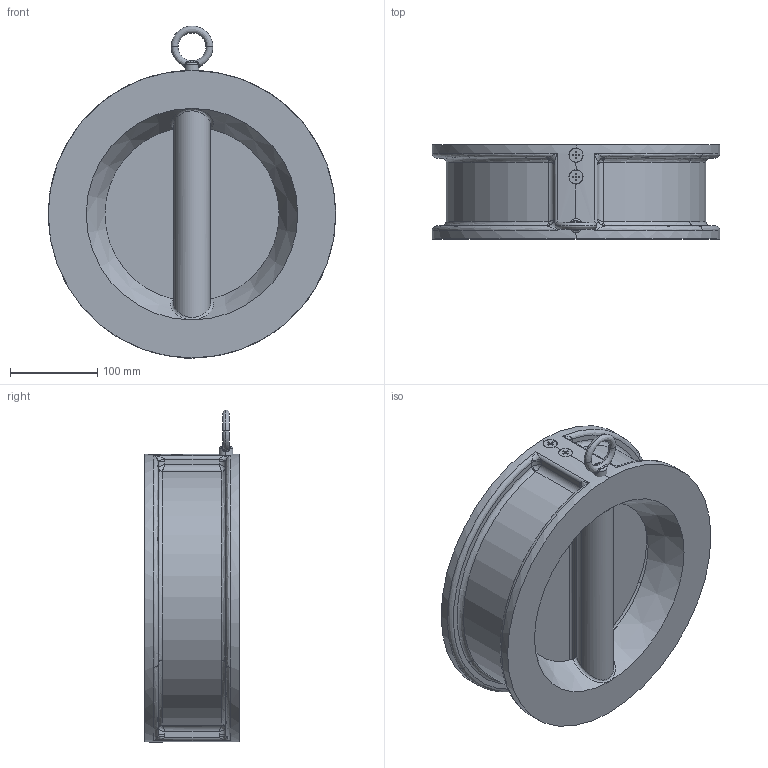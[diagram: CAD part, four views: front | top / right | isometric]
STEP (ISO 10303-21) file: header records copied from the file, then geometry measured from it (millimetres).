
FILE_DESCRIPTION (( 'STEP AP203' ), '1' );
FILE_NAME ('00.STEP', '2017-04-02T09:53:14', ( 'User' ), ( 'shendu' ), 'SwSTEP 2.0', 'SolidWorks 2015', '' );
FILE_SCHEMA (( 'CONFIG_CONTROL_DESIGN' ));
Products named in the file (1): 00
Bounding box: 330 x 108 x 381.04 mm (x, y, z)
Volume: 3457408.3 mm3; surface area: 556462.9 mm2
Topology: 17 solids, 17 shells, 506 faces, 1211 edges, 704 vertices
Faces by surface type: bspline 180, cylinder 161, plane 130, cone 35
Entity records: 114021 total; most frequent: CARTESIAN_POINT 103526, ORIENTED_EDGE 2372, DIRECTION 1829, EDGE_CURVE 1186, VERTEX_POINT 704, AXIS2_PLACEMENT_3D 687, EDGE_LOOP 530, ADVANCED_FACE 506
